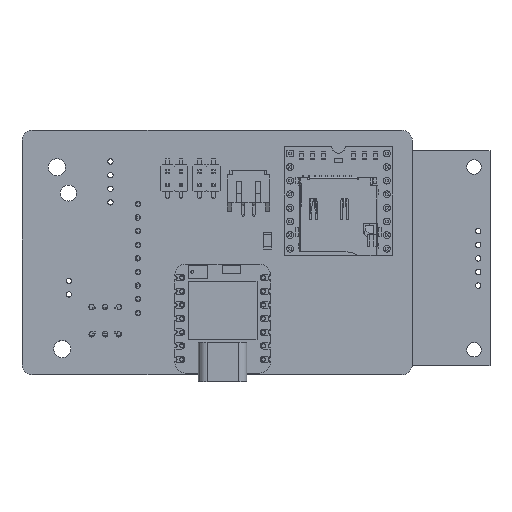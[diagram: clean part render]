
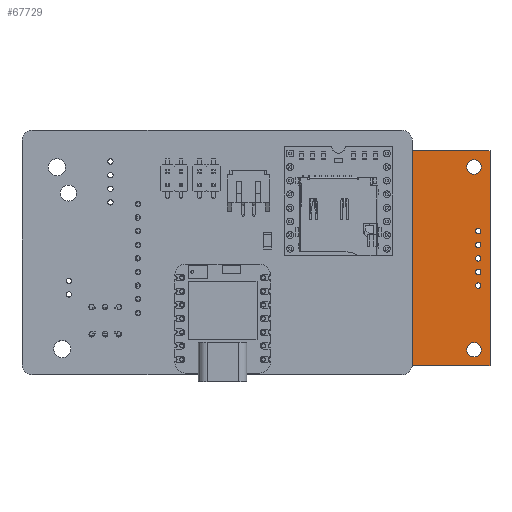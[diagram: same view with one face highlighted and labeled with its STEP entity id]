
A CAD part, top view. The second image highlights one B-rep face of the part: STEP entity #67729.
In plain terms, the highlighted planar face has unit normal (0, 0, 1) as drawn and (0, 0, -1) by its records, which use the part's own axes.
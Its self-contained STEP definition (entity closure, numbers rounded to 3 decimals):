
#67632 = VERTEX_POINT('',#67633);
#67633 = CARTESIAN_POINT('',(-1.5,9.89,1.4));
#67650 = VERTEX_POINT('',#67651);
#67651 = CARTESIAN_POINT('',(65.7,9.89,1.4));
#67657 = EDGE_CURVE('',#67632,#67650,#67658,.T.);
#67658 = LINE('',#67659,#67660);
#67659 = CARTESIAN_POINT('',(-1.5,9.89,1.4));
#67660 = VECTOR('',#67661,1.);
#67661 = DIRECTION('',(1.,0.,0.));
#67672 = VERTEX_POINT('',#67673);
#67673 = CARTESIAN_POINT('',(-1.5,-30.21,1.4));
#67688 = EDGE_CURVE('',#67672,#67632,#67689,.T.);
#67689 = LINE('',#67690,#67691);
#67690 = CARTESIAN_POINT('',(-1.5,-30.21,1.4));
#67691 = VECTOR('',#67692,1.);
#67692 = DIRECTION('',(0.,1.,0.));
#67712 = VERTEX_POINT('',#67713);
#67713 = CARTESIAN_POINT('',(65.7,-30.21,1.4));
#67719 = EDGE_CURVE('',#67650,#67712,#67720,.T.);
#67720 = LINE('',#67721,#67722);
#67721 = CARTESIAN_POINT('',(65.7,9.89,1.4));
#67722 = VECTOR('',#67723,1.);
#67723 = DIRECTION('',(0.,-1.,0.));
#67729 = ADVANCED_FACE('',(#67730,#67741,#67775,#67786,#67852,#67863,
    #67874,#67885,#67896,#67907,#67918,#67929),#67940,.T.);
#67730 = FACE_BOUND('',#67731,.T.);
#67731 = EDGE_LOOP('',(#67732,#67733,#67734,#67740));
#67732 = ORIENTED_EDGE('',*,*,#67657,.T.);
#67733 = ORIENTED_EDGE('',*,*,#67719,.T.);
#67734 = ORIENTED_EDGE('',*,*,#67735,.T.);
#67735 = EDGE_CURVE('',#67712,#67672,#67736,.T.);
#67736 = LINE('',#67737,#67738);
#67737 = CARTESIAN_POINT('',(65.7,-30.21,1.4));
#67738 = VECTOR('',#67739,1.);
#67739 = DIRECTION('',(-1.,0.,0.));
#67740 = ORIENTED_EDGE('',*,*,#67688,.T.);
#67741 = FACE_BOUND('',#67742,.T.);
#67742 = EDGE_LOOP('',(#67743,#67753,#67761,#67769));
#67743 = ORIENTED_EDGE('',*,*,#67744,.F.);
#67744 = EDGE_CURVE('',#67745,#67747,#67749,.T.);
#67745 = VERTEX_POINT('',#67746);
#67746 = CARTESIAN_POINT('',(0.55,1.,1.4));
#67747 = VERTEX_POINT('',#67748);
#67748 = CARTESIAN_POINT('',(0.55,-21.,1.4));
#67749 = LINE('',#67750,#67751);
#67750 = CARTESIAN_POINT('',(0.55,-15.58,1.4));
#67751 = VECTOR('',#67752,1.);
#67752 = DIRECTION('',(0.,-1.,0.));
#67753 = ORIENTED_EDGE('',*,*,#67754,.F.);
#67754 = EDGE_CURVE('',#67755,#67745,#67757,.T.);
#67755 = VERTEX_POINT('',#67756);
#67756 = CARTESIAN_POINT('',(-0.45,1.,1.4));
#67757 = LINE('',#67758,#67759);
#67758 = CARTESIAN_POINT('',(15.825,1.,1.4));
#67759 = VECTOR('',#67760,1.);
#67760 = DIRECTION('',(1.,0.,0.));
#67761 = ORIENTED_EDGE('',*,*,#67762,.T.);
#67762 = EDGE_CURVE('',#67755,#67763,#67765,.T.);
#67763 = VERTEX_POINT('',#67764);
#67764 = CARTESIAN_POINT('',(-0.45,-21.,1.4));
#67765 = LINE('',#67766,#67767);
#67766 = CARTESIAN_POINT('',(-0.45,-15.58,1.4));
#67767 = VECTOR('',#67768,1.);
#67768 = DIRECTION('',(0.,-1.,0.));
#67769 = ORIENTED_EDGE('',*,*,#67770,.T.);
#67770 = EDGE_CURVE('',#67763,#67747,#67771,.T.);
#67771 = LINE('',#67772,#67773);
#67772 = CARTESIAN_POINT('',(15.825,-21.,1.4));
#67773 = VECTOR('',#67774,1.);
#67774 = DIRECTION('',(1.,0.,0.));
#67775 = FACE_BOUND('',#67776,.T.);
#67776 = EDGE_LOOP('',(#67777));
#67777 = ORIENTED_EDGE('',*,*,#67778,.T.);
#67778 = EDGE_CURVE('',#67779,#67779,#67781,.T.);
#67779 = VERTEX_POINT('',#67780);
#67780 = CARTESIAN_POINT('',(2.85,-27.21,1.4));
#67781 = CIRCLE('',#67782,1.35);
#67782 = AXIS2_PLACEMENT_3D('',#67783,#67784,#67785);
#67783 = CARTESIAN_POINT('',(1.5,-27.21,1.4));
#67784 = DIRECTION('',(0.,0.,1.));
#67785 = DIRECTION('',(1.,0.,-0.));
#67786 = FACE_BOUND('',#67787,.T.);
#67787 = EDGE_LOOP('',(#67788,#67798,#67806,#67814,#67822,#67830,#67838,
    #67846));
#67788 = ORIENTED_EDGE('',*,*,#67789,.F.);
#67789 = EDGE_CURVE('',#67790,#67792,#67794,.T.);
#67790 = VERTEX_POINT('',#67791);
#67791 = CARTESIAN_POINT('',(32.929,-21.929,1.4));
#67792 = VERTEX_POINT('',#67793);
#67793 = CARTESIAN_POINT('',(33.,-22.,1.4));
#67794 = LINE('',#67795,#67796);
#67795 = CARTESIAN_POINT('',(33.315,-22.315,1.4));
#67796 = VECTOR('',#67797,1.);
#67797 = DIRECTION('',(0.707,-0.707,0.));
#67798 = ORIENTED_EDGE('',*,*,#67799,.T.);
#67799 = EDGE_CURVE('',#67790,#67800,#67802,.T.);
#67800 = VERTEX_POINT('',#67801);
#67801 = CARTESIAN_POINT('',(33.,-21.858,1.4));
#67802 = LINE('',#67803,#67804);
#67803 = CARTESIAN_POINT('',(35.664,-19.194,1.4));
#67804 = VECTOR('',#67805,1.);
#67805 = DIRECTION('',(0.707,0.707,0.));
#67806 = ORIENTED_EDGE('',*,*,#67807,.F.);
#67807 = EDGE_CURVE('',#67808,#67800,#67810,.T.);
#67808 = VERTEX_POINT('',#67809);
#67809 = CARTESIAN_POINT('',(33.,-19.,1.4));
#67810 = LINE('',#67811,#67812);
#67811 = CARTESIAN_POINT('',(33.,-16.08,1.4));
#67812 = VECTOR('',#67813,1.);
#67813 = DIRECTION('',(0.,-1.,0.));
#67814 = ORIENTED_EDGE('',*,*,#67815,.F.);
#67815 = EDGE_CURVE('',#67816,#67808,#67818,.T.);
#67816 = VERTEX_POINT('',#67817);
#67817 = CARTESIAN_POINT('',(22.,-19.,1.4));
#67818 = LINE('',#67819,#67820);
#67819 = CARTESIAN_POINT('',(27.05,-19.,1.4));
#67820 = VECTOR('',#67821,1.);
#67821 = DIRECTION('',(1.,0.,0.));
#67822 = ORIENTED_EDGE('',*,*,#67823,.T.);
#67823 = EDGE_CURVE('',#67816,#67824,#67826,.T.);
#67824 = VERTEX_POINT('',#67825);
#67825 = CARTESIAN_POINT('',(22.,-29.,1.4));
#67826 = LINE('',#67827,#67828);
#67827 = CARTESIAN_POINT('',(22.,-19.58,1.4));
#67828 = VECTOR('',#67829,1.);
#67829 = DIRECTION('',(0.,-1.,0.));
#67830 = ORIENTED_EDGE('',*,*,#67831,.T.);
#67831 = EDGE_CURVE('',#67824,#67832,#67834,.T.);
#67832 = VERTEX_POINT('',#67833);
#67833 = CARTESIAN_POINT('',(35.,-29.,1.4));
#67834 = LINE('',#67835,#67836);
#67835 = CARTESIAN_POINT('',(27.05,-29.,1.4));
#67836 = VECTOR('',#67837,1.);
#67837 = DIRECTION('',(1.,0.,0.));
#67838 = ORIENTED_EDGE('',*,*,#67839,.F.);
#67839 = EDGE_CURVE('',#67840,#67832,#67842,.T.);
#67840 = VERTEX_POINT('',#67841);
#67841 = CARTESIAN_POINT('',(35.,-24.,1.4));
#67842 = LINE('',#67843,#67844);
#67843 = CARTESIAN_POINT('',(35.,-19.58,1.4));
#67844 = VECTOR('',#67845,1.);
#67845 = DIRECTION('',(0.,-1.,0.));
#67846 = ORIENTED_EDGE('',*,*,#67847,.F.);
#67847 = EDGE_CURVE('',#67792,#67840,#67848,.T.);
#67848 = LINE('',#67849,#67850);
#67849 = CARTESIAN_POINT('',(33.315,-22.315,1.4));
#67850 = VECTOR('',#67851,1.);
#67851 = DIRECTION('',(0.707,-0.707,0.));
#67852 = FACE_BOUND('',#67853,.T.);
#67853 = EDGE_LOOP('',(#67854));
#67854 = ORIENTED_EDGE('',*,*,#67855,.T.);
#67855 = EDGE_CURVE('',#67856,#67856,#67858,.T.);
#67856 = VERTEX_POINT('',#67857);
#67857 = CARTESIAN_POINT('',(64.02,-5.08,1.4));
#67858 = CIRCLE('',#67859,0.5);
#67859 = AXIS2_PLACEMENT_3D('',#67860,#67861,#67862);
#67860 = CARTESIAN_POINT('',(63.52,-5.08,1.4));
#67861 = DIRECTION('',(0.,0.,1.));
#67862 = DIRECTION('',(1.,0.,-0.));
#67863 = FACE_BOUND('',#67864,.T.);
#67864 = EDGE_LOOP('',(#67865));
#67865 = ORIENTED_EDGE('',*,*,#67866,.T.);
#67866 = EDGE_CURVE('',#67867,#67867,#67869,.T.);
#67867 = VERTEX_POINT('',#67868);
#67868 = CARTESIAN_POINT('',(64.02,-7.62,1.4));
#67869 = CIRCLE('',#67870,0.5);
#67870 = AXIS2_PLACEMENT_3D('',#67871,#67872,#67873);
#67871 = CARTESIAN_POINT('',(63.52,-7.62,1.4));
#67872 = DIRECTION('',(0.,0.,1.));
#67873 = DIRECTION('',(1.,0.,-0.));
#67874 = FACE_BOUND('',#67875,.T.);
#67875 = EDGE_LOOP('',(#67876));
#67876 = ORIENTED_EDGE('',*,*,#67877,.T.);
#67877 = EDGE_CURVE('',#67878,#67878,#67880,.T.);
#67878 = VERTEX_POINT('',#67879);
#67879 = CARTESIAN_POINT('',(64.02,-10.16,1.4));
#67880 = CIRCLE('',#67881,0.5);
#67881 = AXIS2_PLACEMENT_3D('',#67882,#67883,#67884);
#67882 = CARTESIAN_POINT('',(63.52,-10.16,1.4));
#67883 = DIRECTION('',(0.,0.,1.));
#67884 = DIRECTION('',(1.,0.,-0.));
#67885 = FACE_BOUND('',#67886,.T.);
#67886 = EDGE_LOOP('',(#67887));
#67887 = ORIENTED_EDGE('',*,*,#67888,.T.);
#67888 = EDGE_CURVE('',#67889,#67889,#67891,.T.);
#67889 = VERTEX_POINT('',#67890);
#67890 = CARTESIAN_POINT('',(64.02,-15.24,1.4));
#67891 = CIRCLE('',#67892,0.5);
#67892 = AXIS2_PLACEMENT_3D('',#67893,#67894,#67895);
#67893 = CARTESIAN_POINT('',(63.52,-15.24,1.4));
#67894 = DIRECTION('',(0.,0.,1.));
#67895 = DIRECTION('',(1.,0.,-0.));
#67896 = FACE_BOUND('',#67897,.T.);
#67897 = EDGE_LOOP('',(#67898));
#67898 = ORIENTED_EDGE('',*,*,#67899,.T.);
#67899 = EDGE_CURVE('',#67900,#67900,#67902,.T.);
#67900 = VERTEX_POINT('',#67901);
#67901 = CARTESIAN_POINT('',(64.02,-12.7,1.4));
#67902 = CIRCLE('',#67903,0.5);
#67903 = AXIS2_PLACEMENT_3D('',#67904,#67905,#67906);
#67904 = CARTESIAN_POINT('',(63.52,-12.7,1.4));
#67905 = DIRECTION('',(0.,0.,1.));
#67906 = DIRECTION('',(1.,0.,-0.));
#67907 = FACE_BOUND('',#67908,.T.);
#67908 = EDGE_LOOP('',(#67909));
#67909 = ORIENTED_EDGE('',*,*,#67910,.T.);
#67910 = EDGE_CURVE('',#67911,#67911,#67913,.T.);
#67911 = VERTEX_POINT('',#67912);
#67912 = CARTESIAN_POINT('',(64.05,-27.21,1.4));
#67913 = CIRCLE('',#67914,1.35);
#67914 = AXIS2_PLACEMENT_3D('',#67915,#67916,#67917);
#67915 = CARTESIAN_POINT('',(62.7,-27.21,1.4));
#67916 = DIRECTION('',(0.,0.,1.));
#67917 = DIRECTION('',(1.,0.,-0.));
#67918 = FACE_BOUND('',#67919,.T.);
#67919 = EDGE_LOOP('',(#67920));
#67920 = ORIENTED_EDGE('',*,*,#67921,.T.);
#67921 = EDGE_CURVE('',#67922,#67922,#67924,.T.);
#67922 = VERTEX_POINT('',#67923);
#67923 = CARTESIAN_POINT('',(2.85,6.89,1.4));
#67924 = CIRCLE('',#67925,1.35);
#67925 = AXIS2_PLACEMENT_3D('',#67926,#67927,#67928);
#67926 = CARTESIAN_POINT('',(1.5,6.89,1.4));
#67927 = DIRECTION('',(0.,0.,1.));
#67928 = DIRECTION('',(1.,0.,-0.));
#67929 = FACE_BOUND('',#67930,.T.);
#67930 = EDGE_LOOP('',(#67931));
#67931 = ORIENTED_EDGE('',*,*,#67932,.T.);
#67932 = EDGE_CURVE('',#67933,#67933,#67935,.T.);
#67933 = VERTEX_POINT('',#67934);
#67934 = CARTESIAN_POINT('',(64.05,6.89,1.4));
#67935 = CIRCLE('',#67936,1.35);
#67936 = AXIS2_PLACEMENT_3D('',#67937,#67938,#67939);
#67937 = CARTESIAN_POINT('',(62.7,6.89,1.4));
#67938 = DIRECTION('',(0.,0.,1.));
#67939 = DIRECTION('',(1.,0.,-0.));
#67940 = PLANE('',#67941);
#67941 = AXIS2_PLACEMENT_3D('',#67942,#67943,#67944);
#67942 = CARTESIAN_POINT('',(32.1,-10.16,1.4));
#67943 = DIRECTION('',(-0.,-0.,-1.));
#67944 = DIRECTION('',(-1.,0.,0.));
